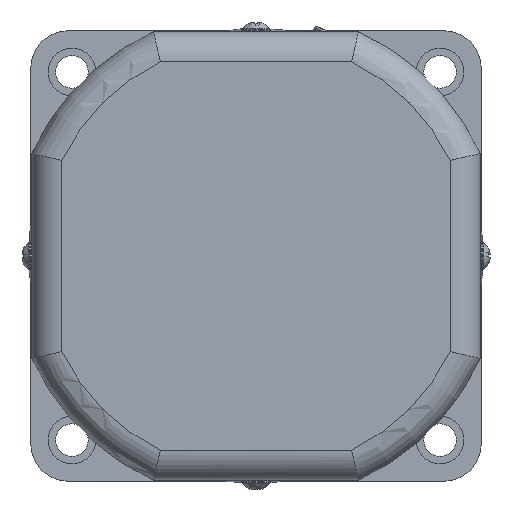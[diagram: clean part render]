
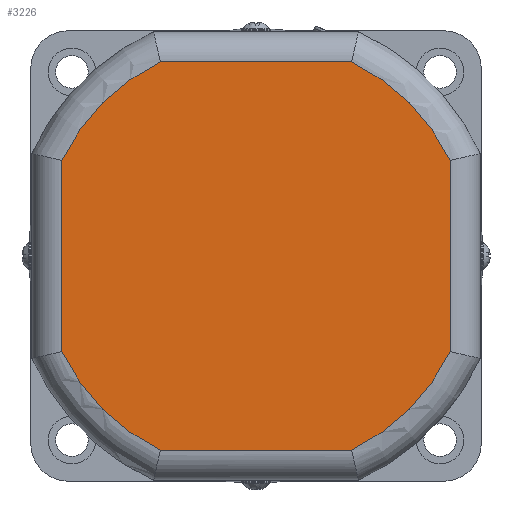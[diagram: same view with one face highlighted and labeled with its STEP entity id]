
A CAD part, left-side view. The second image highlights one B-rep face of the part: STEP entity #3226.
In plain terms, the highlighted planar face has unit normal (-1, 0, 0) as drawn and (0, 0, -1) by its records, which use the part's own axes.
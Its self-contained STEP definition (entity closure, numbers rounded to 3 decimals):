
#2559=CARTESIAN_POINT('',(38.8,-19.108,0.0));
#2560=VERTEX_POINT('',#2559);
#2587=CARTESIAN_POINT('',(19.108,-38.8,0.0));
#2588=VERTEX_POINT('',#2587);
#2606=CARTESIAN_POINT('',(0.0,0.0,0.0));
#2607=DIRECTION('',(0.0,0.0,1.0));
#2608=DIRECTION('',(0.707,-0.707,0.0));
#2609=AXIS2_PLACEMENT_3D('',#2606,#2607,#2608);
#2610=CIRCLE('',#2609,43.25);
#2611=EDGE_CURVE('',#2588,#2560,#2610,.T.);
#2623=CARTESIAN_POINT('',(-19.108,-38.8,0.0));
#2624=VERTEX_POINT('',#2623);
#2642=CARTESIAN_POINT('',(-19.108,-38.8,0.0));
#2643=DIRECTION('',(1.0,0.0,0.0));
#2644=VECTOR('',#2643,38.216);
#2645=LINE('',#2642,#2644);
#2646=EDGE_CURVE('',#2624,#2588,#2645,.T.);
#2665=CARTESIAN_POINT('',(38.8,19.108,0.0));
#2666=VERTEX_POINT('',#2665);
#2691=CARTESIAN_POINT('',(38.8,-19.108,0.0));
#2692=DIRECTION('',(0.0,1.0,0.0));
#2693=VECTOR('',#2692,38.216);
#2694=LINE('',#2691,#2693);
#2695=EDGE_CURVE('',#2560,#2666,#2694,.T.);
#2707=CARTESIAN_POINT('',(-38.8,-19.108,0.0));
#2708=VERTEX_POINT('',#2707);
#2726=CARTESIAN_POINT('',(0.0,0.0,0.0));
#2727=DIRECTION('',(0.0,0.0,1.0));
#2728=DIRECTION('',(-0.707,-0.707,0.0));
#2729=AXIS2_PLACEMENT_3D('',#2726,#2727,#2728);
#2730=CIRCLE('',#2729,43.25);
#2731=EDGE_CURVE('',#2708,#2624,#2730,.T.);
#2751=CARTESIAN_POINT('',(19.108,38.8,0.0));
#2752=VERTEX_POINT('',#2751);
#2778=CARTESIAN_POINT('',(0.0,0.0,0.0));
#2779=DIRECTION('',(0.0,0.0,1.0));
#2780=DIRECTION('',(0.707,0.707,0.0));
#2781=AXIS2_PLACEMENT_3D('',#2778,#2779,#2780);
#2782=CIRCLE('',#2781,43.25);
#2783=EDGE_CURVE('',#2666,#2752,#2782,.T.);
#2795=CARTESIAN_POINT('',(-38.8,19.108,0.0));
#2796=VERTEX_POINT('',#2795);
#2814=CARTESIAN_POINT('',(-38.8,19.108,0.0));
#2815=DIRECTION('',(0.0,-1.0,0.0));
#2816=VECTOR('',#2815,38.216);
#2817=LINE('',#2814,#2816);
#2818=EDGE_CURVE('',#2796,#2708,#2817,.T.);
#2835=CARTESIAN_POINT('',(-19.108,38.8,0.0));
#2836=VERTEX_POINT('',#2835);
#2863=CARTESIAN_POINT('',(19.108,38.8,0.0));
#2864=DIRECTION('',(-1.0,0.0,0.0));
#2865=VECTOR('',#2864,38.216);
#2866=LINE('',#2863,#2865);
#2867=EDGE_CURVE('',#2752,#2836,#2866,.T.);
#2878=CARTESIAN_POINT('',(0.0,0.0,0.0));
#2879=DIRECTION('',(0.0,0.0,1.0));
#2880=DIRECTION('',(-0.707,0.707,0.0));
#2881=AXIS2_PLACEMENT_3D('',#2878,#2879,#2880);
#2882=CIRCLE('',#2881,43.25);
#2883=EDGE_CURVE('',#2836,#2796,#2882,.T.);
#3211=CARTESIAN_POINT('',(0.,0.0,0.0));
#3212=DIRECTION('',(0.0,0.0,1.0));
#3213=DIRECTION('',(1.0,0.0,0.0));
#3214=AXIS2_PLACEMENT_3D('',#3211,#3212,#3213);
#3215=PLANE('',#3214);
#3216=ORIENTED_EDGE('',*,*,#2867,.F.);
#3217=ORIENTED_EDGE('',*,*,#2783,.F.);
#3218=ORIENTED_EDGE('',*,*,#2695,.F.);
#3219=ORIENTED_EDGE('',*,*,#2611,.F.);
#3220=ORIENTED_EDGE('',*,*,#2646,.F.);
#3221=ORIENTED_EDGE('',*,*,#2731,.F.);
#3222=ORIENTED_EDGE('',*,*,#2818,.F.);
#3223=ORIENTED_EDGE('',*,*,#2883,.F.);
#3224=EDGE_LOOP('',(#3216,#3217,#3218,#3219,#3220,#3221,#3222,#3223));
#3225=FACE_OUTER_BOUND('',#3224,.T.);
#3226=ADVANCED_FACE('',(#3225),#3215,.F.);
